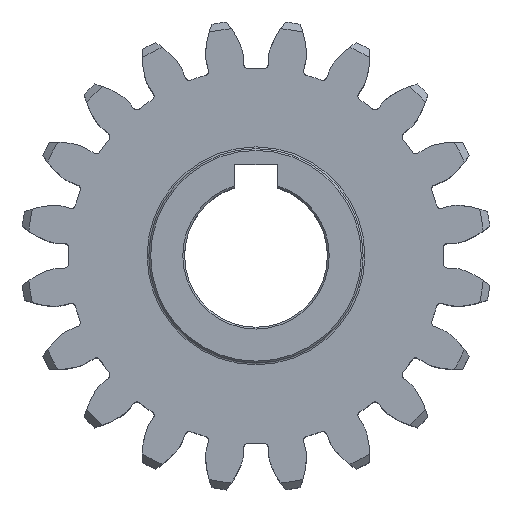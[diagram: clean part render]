
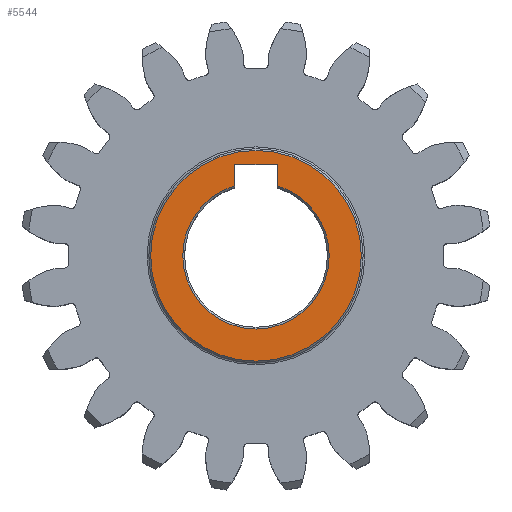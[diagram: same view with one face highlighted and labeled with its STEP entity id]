
A CAD part, top view. The second image highlights one B-rep face of the part: STEP entity #5544.
In plain terms, the highlighted planar face has unit normal (0, 0, 1).
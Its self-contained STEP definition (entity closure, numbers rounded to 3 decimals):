
#107 = DIRECTION ( 'NONE',  ( 0., 0., 1. ) ) ;
#119 = DIRECTION ( 'NONE',  ( 1., 0., 0. ) ) ;
#127 = LINE ( 'NONE', #8491, #3608 ) ;
#173 = DIRECTION ( 'NONE',  ( 1., 0., 0. ) ) ;
#522 = ORIENTED_EDGE ( 'NONE', *, *, #5118, .T. ) ;
#990 = VERTEX_POINT ( 'NONE', #6587 ) ;
#1009 = AXIS2_PLACEMENT_3D ( 'NONE', #10157, #5824, #2798 ) ;
#1143 = AXIS2_PLACEMENT_3D ( 'NONE', #9090, #10371, #119 ) ;
#1257 = DIRECTION ( 'NONE',  ( 1., 0., 0. ) ) ;
#1298 = DIRECTION ( 'NONE',  ( 0., 1., 0. ) ) ;
#1478 = DIRECTION ( 'NONE',  ( 1., 0., 0. ) ) ;
#1583 = EDGE_CURVE ( 'NONE', #7831, #11639, #7384, .T. ) ;
#1898 = ORIENTED_EDGE ( 'NONE', *, *, #8554, .T. ) ;
#2254 = FACE_OUTER_BOUND ( 'NONE', #12142, .T. ) ;
#2296 = LINE ( 'NONE', #10398, #4537 ) ;
#2432 = CIRCLE ( 'NONE', #1143, 10.25 ) ;
#2798 = DIRECTION ( 'NONE',  ( 1., 0., 0. ) ) ;
#2849 = EDGE_CURVE ( 'NONE', #10134, #9604, #2432, .T. ) ;
#2954 = CARTESIAN_POINT ( 'NONE',  ( 10.25, 0., 15. ) ) ;
#3117 = ORIENTED_EDGE ( 'NONE', *, *, #6535, .T. ) ;
#3202 = CARTESIAN_POINT ( 'NONE',  ( -14.75, 0., 15. ) ) ;
#3411 = CARTESIAN_POINT ( 'NONE',  ( 0., 0., 15. ) ) ;
#3608 = VECTOR ( 'NONE', #7498, 1000. ) ;
#3957 = ORIENTED_EDGE ( 'NONE', *, *, #2849, .T. ) ;
#4452 = CARTESIAN_POINT ( 'NONE',  ( 0., 0., 15. ) ) ;
#4537 = VECTOR ( 'NONE', #1298, 1000. ) ;
#5118 = EDGE_CURVE ( 'NONE', #12930, #12827, #2296, .T. ) ;
#5272 = CARTESIAN_POINT ( 'NONE',  ( 0., 0., 15. ) ) ;
#5474 = EDGE_CURVE ( 'NONE', #9604, #12930, #6447, .T. ) ;
#5544 = ADVANCED_FACE ( 'NONE', ( #2254, #9272 ), #11416, .T. ) ;
#5607 = CARTESIAN_POINT ( 'NONE',  ( -10.25, 0., 15. ) ) ;
#5680 = VECTOR ( 'NONE', #6971, 1000. ) ;
#5824 = DIRECTION ( 'NONE',  ( 0., 0., 1. ) ) ;
#6018 = AXIS2_PLACEMENT_3D ( 'NONE', #4452, #107, #1257 ) ;
#6447 = CIRCLE ( 'NONE', #10077, 10.25 ) ;
#6535 = EDGE_CURVE ( 'NONE', #12827, #990, #11166, .T. ) ;
#6587 = CARTESIAN_POINT ( 'NONE',  ( 3., 12.8, 15. ) ) ;
#6943 = EDGE_LOOP ( 'NONE', ( #12818, #12396, #3957, #10413, #522, #3117 ) ) ;
#6971 = DIRECTION ( 'NONE',  ( 1., 0., 0. ) ) ;
#7384 = CIRCLE ( 'NONE', #10375, 14.75 ) ;
#7482 = CARTESIAN_POINT ( 'NONE',  ( -3., 9.801, 15. ) ) ;
#7498 = DIRECTION ( 'NONE',  ( 0., -1., 0. ) ) ;
#7831 = VERTEX_POINT ( 'NONE', #3202 ) ;
#7976 = CARTESIAN_POINT ( 'NONE',  ( 0., 0., 15. ) ) ;
#8258 = DIRECTION ( 'NONE',  ( 1., 0., 0. ) ) ;
#8491 = CARTESIAN_POINT ( 'NONE',  ( 3., 7.2, 15. ) ) ;
#8554 = EDGE_CURVE ( 'NONE', #11639, #7831, #9780, .T. ) ;
#8715 = AXIS2_PLACEMENT_3D ( 'NONE', #5272, #9404, #173 ) ;
#9072 = EDGE_CURVE ( 'NONE', #12397, #10134, #12330, .T. ) ;
#9090 = CARTESIAN_POINT ( 'NONE',  ( 0., 0., 15. ) ) ;
#9272 = FACE_BOUND ( 'NONE', #6943, .T. ) ;
#9404 = DIRECTION ( 'NONE',  ( 0., 0., -1. ) ) ;
#9604 = VERTEX_POINT ( 'NONE', #5607 ) ;
#9614 = CARTESIAN_POINT ( 'NONE',  ( -3., 12.8, 15. ) ) ;
#9780 = CIRCLE ( 'NONE', #1009, 14.75 ) ;
#10077 = AXIS2_PLACEMENT_3D ( 'NONE', #7976, #11617, #8258 ) ;
#10098 = ORIENTED_EDGE ( 'NONE', *, *, #1583, .T. ) ;
#10134 = VERTEX_POINT ( 'NONE', #2954 ) ;
#10157 = CARTESIAN_POINT ( 'NONE',  ( 0., 0., 15. ) ) ;
#10371 = DIRECTION ( 'NONE',  ( 0., 0., -1. ) ) ;
#10375 = AXIS2_PLACEMENT_3D ( 'NONE', #3411, #11570, #1478 ) ;
#10398 = CARTESIAN_POINT ( 'NONE',  ( -3., 7.2, 15. ) ) ;
#10413 = ORIENTED_EDGE ( 'NONE', *, *, #5474, .T. ) ;
#10478 = CARTESIAN_POINT ( 'NONE',  ( 3., 9.801, 15. ) ) ;
#11166 = LINE ( 'NONE', #13157, #5680 ) ;
#11252 = EDGE_CURVE ( 'NONE', #990, #12397, #127, .T. ) ;
#11416 = PLANE ( 'NONE',  #6018 ) ;
#11570 = DIRECTION ( 'NONE',  ( 0., 0., 1. ) ) ;
#11617 = DIRECTION ( 'NONE',  ( 0., 0., -1. ) ) ;
#11639 = VERTEX_POINT ( 'NONE', #13048 ) ;
#12142 = EDGE_LOOP ( 'NONE', ( #10098, #1898 ) ) ;
#12330 = CIRCLE ( 'NONE', #8715, 10.25 ) ;
#12396 = ORIENTED_EDGE ( 'NONE', *, *, #9072, .T. ) ;
#12397 = VERTEX_POINT ( 'NONE', #10478 ) ;
#12818 = ORIENTED_EDGE ( 'NONE', *, *, #11252, .T. ) ;
#12827 = VERTEX_POINT ( 'NONE', #9614 ) ;
#12930 = VERTEX_POINT ( 'NONE', #7482 ) ;
#13048 = CARTESIAN_POINT ( 'NONE',  ( 14.75, 0., 15. ) ) ;
#13157 = CARTESIAN_POINT ( 'NONE',  ( 3., 12.8, 15. ) ) ;
